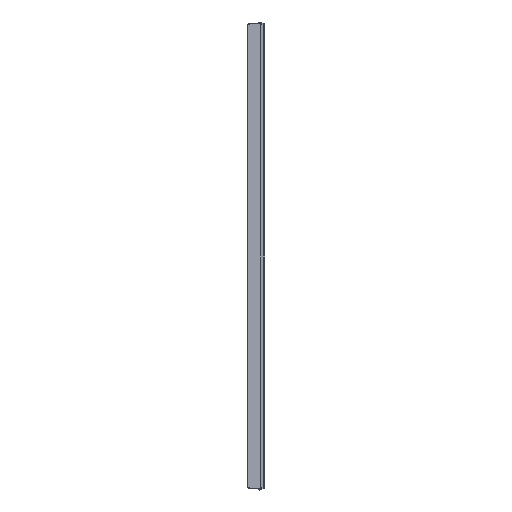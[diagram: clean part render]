
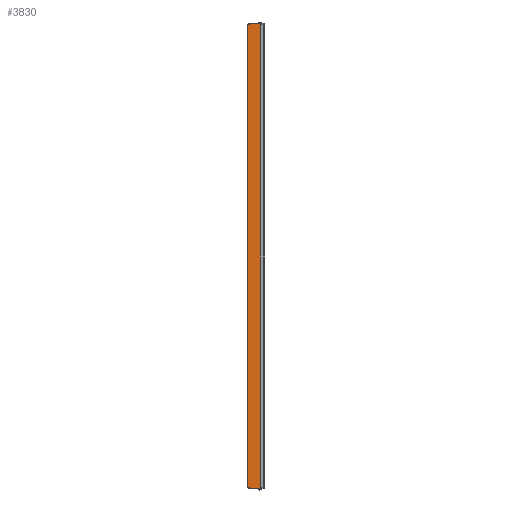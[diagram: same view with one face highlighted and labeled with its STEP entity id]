
A CAD part, left-side view. The second image highlights one B-rep face of the part: STEP entity #3830.
In plain terms, the highlighted planar face has unit normal (-1, 0, 0).
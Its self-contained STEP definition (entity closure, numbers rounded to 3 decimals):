
#466=DIRECTION('',(0.,1.,0.));
#467=VECTOR('',#466,3.303);
#468=CARTESIAN_POINT('',(-14.,13.197,364.5));
#469=LINE('',#468,#467);
#839=DIRECTION('',(0.,1.,0.));
#840=VECTOR('',#839,17.497);
#841=CARTESIAN_POINT('',(-14.,-4.3,365.5));
#842=LINE('',#841,#840);
#847=DIRECTION('',(0.,0.,1.));
#848=VECTOR('',#847,731.);
#849=CARTESIAN_POINT('',(-14.,-4.3,
-365.5));
#850=LINE('',#849,#848);
#1202=DIRECTION('',(0.,0.,-1.));
#1203=VECTOR('',#1202,729.);
#1204=CARTESIAN_POINT('',(-14.,16.5,364.5));
#1205=LINE('',#1204,#1203);
#1206=DIRECTION('',(0.,0.,1.));
#1207=VECTOR('',#1206,1.);
#1208=CARTESIAN_POINT('',(-14.,13.197,
-365.5));
#1209=LINE('',#1208,#1207);
#1210=DIRECTION('',(0.,1.,0.));
#1211=VECTOR('',#1210,3.303);
#1212=CARTESIAN_POINT('',(-14.,13.197,-364.5));
#1213=LINE('',#1212,#1211);
#1214=DIRECTION('',(0.,0.,1.));
#1215=VECTOR('',#1214,1.);
#1216=CARTESIAN_POINT('',(-14.,13.197,364.5));
#1217=LINE('',#1216,#1215);
#1222=DIRECTION('',(0.,-1.,0.));
#1223=VECTOR('',#1222,17.497);
#1224=CARTESIAN_POINT('',(-14.,13.197,
-365.5));
#1225=LINE('',#1224,#1223);
#1810=CARTESIAN_POINT('',(-14.,16.5,-364.5));
#1811=VERTEX_POINT('',#1810);
#1820=CARTESIAN_POINT('',(-14.,16.5,364.5));
#1821=VERTEX_POINT('',#1820);
#2026=CARTESIAN_POINT('',(-14.,13.197,365.5));
#2027=VERTEX_POINT('',#2026);
#2052=CARTESIAN_POINT('',(-14.,-4.3,365.5));
#2053=VERTEX_POINT('',#2052);
#2098=CARTESIAN_POINT('',(-14.,13.197,364.5));
#2100=VERTEX_POINT('',#2098);
#2284=CARTESIAN_POINT('',(-14.,13.197,
-365.5));
#2285=VERTEX_POINT('',#2284);
#2286=CARTESIAN_POINT('',(-14.,-4.3,
-365.5));
#2287=VERTEX_POINT('',#2286);
#2328=CARTESIAN_POINT('',(-14.,13.197,-364.5));
#2329=VERTEX_POINT('',#2328);
#3813=CARTESIAN_POINT('',(-14.,16.5,-364.5));
#3814=DIRECTION('',(-1.,0.,0.));
#3815=DIRECTION('',(0.,-1.,0.));
#3816=AXIS2_PLACEMENT_3D('',#3813,#3814,#3815);
#3817=PLANE('',#3816);
#3818=ORIENTED_EDGE('',*,*,#3213,.F.);
#3820=ORIENTED_EDGE('',*,*,#3819,.F.);
#3822=ORIENTED_EDGE('',*,*,#3821,.T.);
#3823=ORIENTED_EDGE('',*,*,#2447,.T.);
#3824=ORIENTED_EDGE('',*,*,#3808,.F.);
#3825=ORIENTED_EDGE('',*,*,#2856,.F.);
#3826=ORIENTED_EDGE('',*,*,#3183,.T.);
#3827=ORIENTED_EDGE('',*,*,#3198,.F.);
#3828=EDGE_LOOP('',(#3818,#3820,#3822,#3823,#3824,#3825,#3826,#3827));
#3829=FACE_OUTER_BOUND('',#3828,.F.);
#2447=EDGE_CURVE('',#2329,#1811,#1213,.T.);
#2856=EDGE_CURVE('',#2100,#1821,#469,.T.);
#3183=EDGE_CURVE('',#2100,#2027,#1217,.T.);
#3198=EDGE_CURVE('',#2053,#2027,#842,.T.);
#3213=EDGE_CURVE('',#2287,#2053,#850,.T.);
#3808=EDGE_CURVE('',#1821,#1811,#1205,.T.);
#3819=EDGE_CURVE('',#2285,#2287,#1225,.T.);
#3821=EDGE_CURVE('',#2285,#2329,#1209,.T.);
#3830=ADVANCED_FACE('',(#3829),#3817,.T.);
